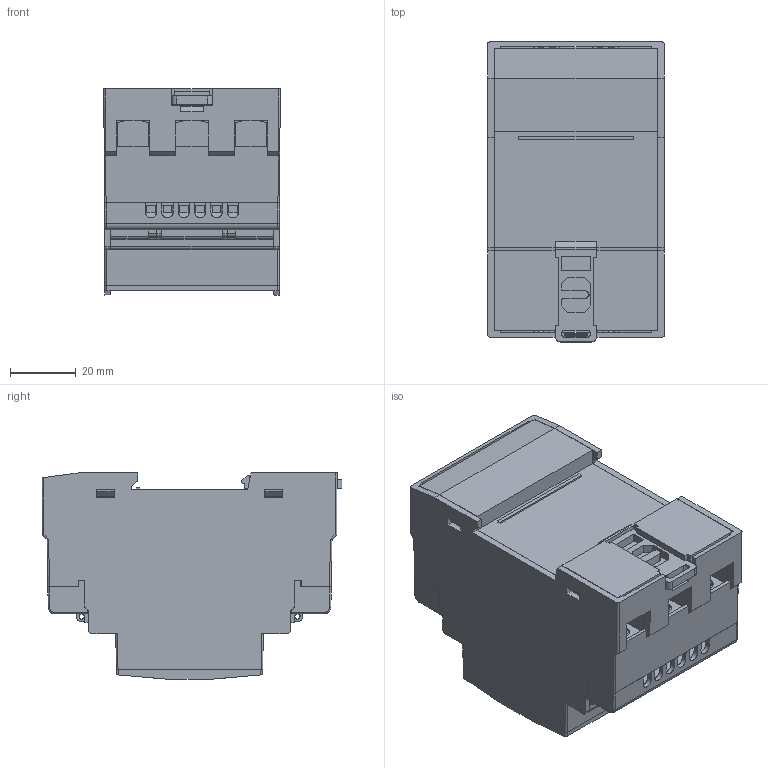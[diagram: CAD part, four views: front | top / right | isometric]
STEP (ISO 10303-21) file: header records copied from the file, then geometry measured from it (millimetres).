
FILE_DESCRIPTION((''),'2;1');
FILE_NAME('EM340_ASM','2015-11-24T',('Administrator'),(''),'PRO/ENGINEER BY PARAMETRIC TECHNOLOGY CORPORATION, 2011190','PRO/ENGINEER BY PARAMETRIC TECHNOLOGY CORPORATION, 2011190','');
FILE_SCHEMA(('CONFIG_CONTROL_DESIGN'));
Products named in the file (17): EM140-SG_3_XG_AF0; EM140-DK_3_XG_AF0; EM140-TMSC_3_XG_AF0; EM140-CG_3_XG_AF0; EM140-CG_3_XG_AF1; JXDZ_XG; JXDZ_XG_AF0; JXDZ_XG_AF1; DZLS_901011_XG; DZLS_901011_XG_AF0; DZLS_901011_XG_AF1; WJ128_XG_AF3; WJ128-3P_XG_AF0; WJ128-3P_XG_AF1; KC01-SL; EM140-GG-2_3_XG_AF6; EM340_ASM
Assembly tree (23 placements, depth 2):
  EM340_ASM
    EM140-SG_3_XG_AF0
    EM140-DK_3_XG_AF0
    EM140-TMSC_3_XG_AF0
    EM140-CG_3_XG_AF0
    EM140-CG_3_XG_AF1
    JXDZ_XG  x4
    JXDZ_XG_AF0
    JXDZ_XG_AF1
    DZLS_901011_XG  x4
    DZLS_901011_XG_AF0
    DZLS_901011_XG_AF1
    WJ128_XG_AF3
    WJ128-3P_XG_AF0
    WJ128-3P_XG_AF1
    KC01-SL  x2
    EM140-GG-2_3_XG_AF6
Bounding box: 53.8 x 91.49 x 62.85 mm (x, y, z)
Volume: 68942.6 mm3; surface area: 86618 mm2
Topology: 23 solids, 23 shells, 2266 faces, 6386 edges, 4218 vertices
Faces by surface type: plane 1707, cylinder 481, torus 30, cone 26, bspline 16, extrusion 6
Entity records: 73836 total; most frequent: CARTESIAN_POINT 24085, ORIENTED_EDGE 10750, DIRECTION 9484, EDGE_CURVE 5375, VECTOR 4466, LINE 4463, VERTEX_POINT 3550, AXIS2_PLACEMENT_3D 2509
